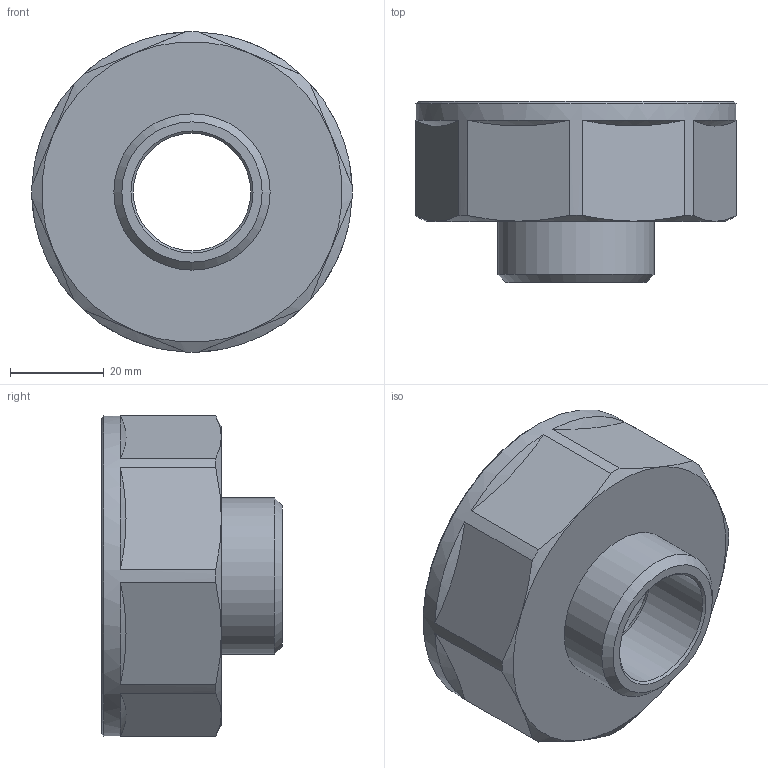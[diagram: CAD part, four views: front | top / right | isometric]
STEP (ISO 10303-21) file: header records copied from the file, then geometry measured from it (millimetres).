
FILE_DESCRIPTION(('STEP AP203'), '1');
FILE_NAME('ﾂﾐ.753158.008 - VTr.592.N.0906 ﾏ褞襄. G2xG1', '2024-07-08T09:39:58', ('Boss'), (''), 'C3D Converter', 'C3D Toolkit', '');
FILE_SCHEMA(('CONFIG_CONTROL_DESIGN'));
Length unit declared in the file: millimetre
Products named in the file (1): ВР.753158.008
Bounding box: 68.19 x 38.5 x 68.19 mm (x, y, z)
Volume: 35742.3 mm3; surface area: 17624.8 mm2
Topology: 1 solids, 1 shells, 37 faces, 85 edges, 52 vertices
Faces by surface type: cone 20, plane 12, cylinder 4, torus 1
Full cylindrical faces by diameter (mm): 25 x1, 33.249 x1, 56.657 x1, 68.2 x1
Entity records: 1463 total; most frequent: CARTESIAN_POINT 739, DIRECTION 144, ORIENTED_EDGE 132, EDGE_CURVE 66, AXIS2_PLACEMENT_3D 64, VERTEX_POINT 47, EDGE_LOOP 45, ADVANCED_FACE 32
